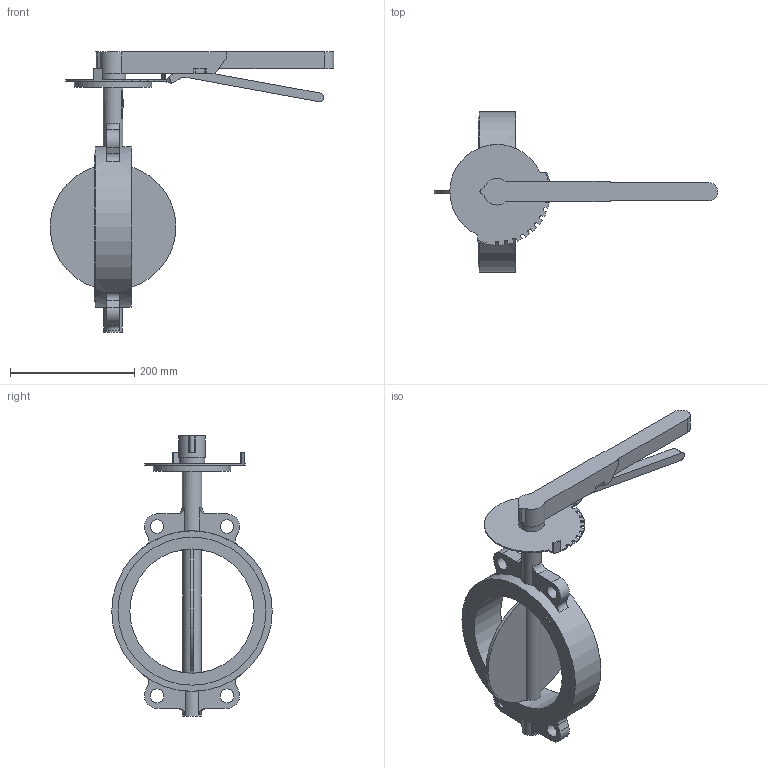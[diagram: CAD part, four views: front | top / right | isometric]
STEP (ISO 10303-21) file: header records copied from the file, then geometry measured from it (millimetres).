
FILE_DESCRIPTION(('STEP AP203'), '1');
FILE_NAME('Çàòâîð 017W.Y_DN200_PN10_ðóêîÿòü', '', ('UNSPECIFIED'), ('UNSPECIFIED'), 'ASCON STEP Converter 1.6', 'ASCON Math Kernel', '');
FILE_SCHEMA(('CONFIG_CONTROL_DESIGN'));
Length unit declared in the file: millimetre
Bounding box: 455.86 x 258.2 x 451 mm (x, y, z)
Volume: 2355992.2 mm3; surface area: 339826.3 mm2
Topology: 1 solids, 1 shells, 197 faces, 538 edges, 356 vertices
Faces by surface type: plane 110, cylinder 83, torus 4
Full cylindrical faces by diameter (mm): 12 x4, 22 x4, 30 x1, 32 x1, 41 x1, 125 x1, 200 x1, 238.2 x2, 258.2 x1
Entity records: 9093 total; most frequent: CARTESIAN_POINT 2378, DIRECTION 1082, ORIENTED_EDGE 1044, EDGE_CURVE 522, AXIS2_PLACEMENT_3D 384, VERTEX_POINT 356, LINE 314, VECTOR 314
